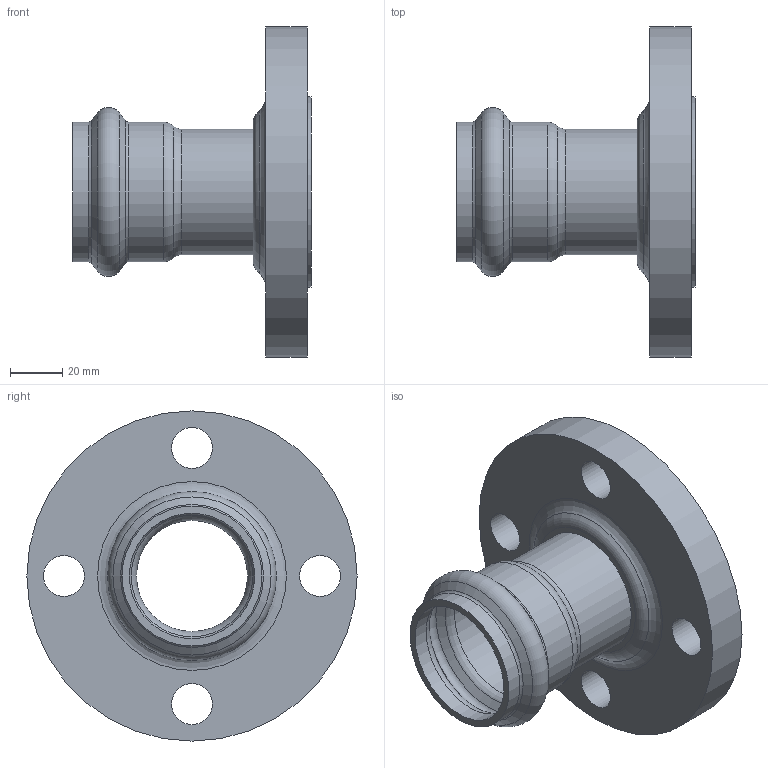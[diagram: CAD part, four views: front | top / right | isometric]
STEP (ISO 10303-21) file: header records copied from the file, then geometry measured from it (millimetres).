
FILE_DESCRIPTION(/* description */ ('VIC VAN STONE FLANGE ADAPTER STYLE P565','CAx-IF Rec.Pracs.---Representation and Presentation of Product Manufacturing Information (PMI)---4.0---2014-10-13'),/* implementation_level */ '2;1');
FILE_NAME(/* name */ 'C:\Users\Vjadhav\AppData\Roaming\Autodesk\ApplicationPlugins\Back Up\Victaulic_SS-Vic-Press-TP 304_Flange Adapter Van Stone_CL 150 RF_Style P565 (VPxFLG)\Victaulic_SS-Vic-Press-TP 304_Flange Adapter Van Stone_CL 150 RF_Style P565 (VPxFLG)_1.5 (40).stp',/* time_stamp */ '2020-08-12T17:23:09+06:00',/* author */ ('cgray'),/* organization */ ('Victaulic'),/* preprocessor_version */ 'ST-DEVELOPER v17.2',/* originating_system */ 'Autodesk Inventor 2019',/* authorisation */ '');
FILE_SCHEMA (('AP242_MANAGED_MODEL_BASED_3D_ENGINEERING_MIM_LF { 1 0 10303 442 1 1 4 }'));
Length unit declared in the file: inch
Products named in the file (1): P565-01.5
Bounding box: 91.69 x 127 x 127 mm (x, y, z)
Volume: 212129.4 mm3; surface area: 57695.5 mm2
Topology: 1 solids, 1 shells, 33 faces, 114 edges, 86 vertices
Faces by surface type: cylinder 12, torus 12, plane 5, cone 4
Full cylindrical faces by diameter (mm): 15.748 x4, 42.723 x1, 48.26 x3, 53.797 x2, 73.152 x1, 127 x1
Entity records: 1531 total; most frequent: DIRECTION 306, CARTESIAN_POINT 251, ORIENTED_EDGE 228, AXIS2_PLACEMENT_3D 145, EDGE_CURVE 114, CIRCLE 98, VERTEX_POINT 86, EDGE_LOOP 46
